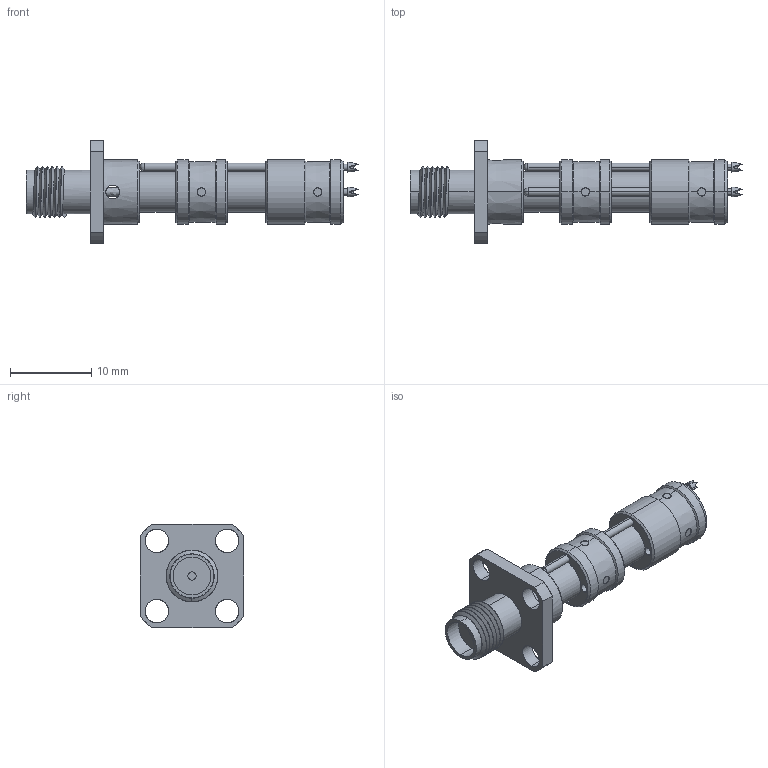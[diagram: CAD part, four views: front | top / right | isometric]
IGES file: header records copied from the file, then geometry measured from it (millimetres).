
Start section: SolidWorks IGES file using analytic representation for surfaces
Global section: file name: Z:\probe solid model mockups\Solidworks models\IGES Files\K-50L-QG IGES files\K-50L-QG RECD.IGS; native system: SolidWorks 2006 by SolidWorks Corporation; preprocessor: SolidWorks 2006 by SolidWorks Corporation; author: tsakatani; date: 080107.153339; units: inch
Bounding box: 40.77 x 12.7 x 12.7 mm (x, y, z)
Surface area: 1745.6 mm2 (no closed solid volume)
Topology: 0 solids, 0 shells, 202 faces, 3028 edges, 3024 vertices
Faces by surface type: revolution 136, bspline 66
